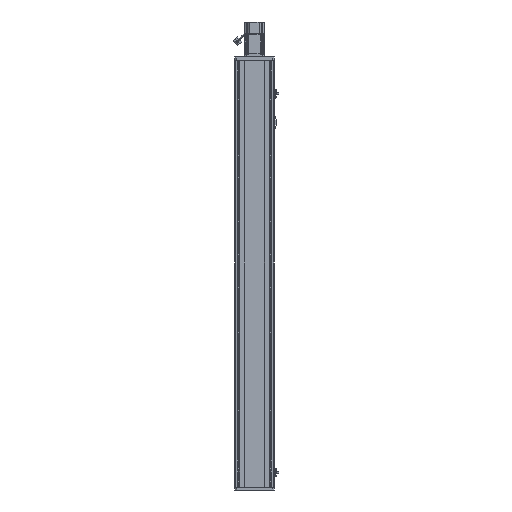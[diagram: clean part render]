
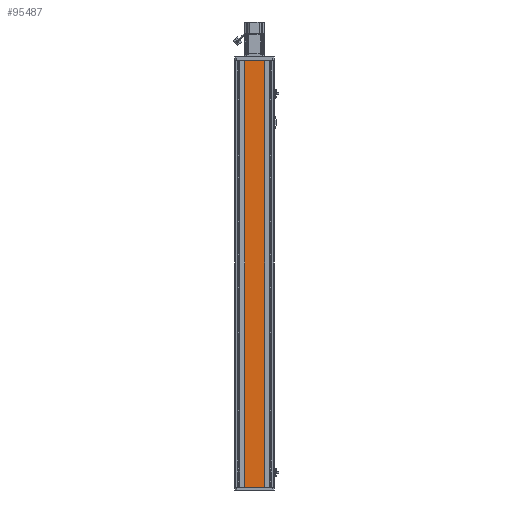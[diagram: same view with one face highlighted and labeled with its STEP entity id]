
A CAD part, front view. The second image highlights one B-rep face of the part: STEP entity #95487.
In plain terms, the highlighted planar face has unit normal (0, -1, 0).
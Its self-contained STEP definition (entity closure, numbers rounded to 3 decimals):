
#142 = VERTEX_POINT ( 'NONE', #74111 ) ;
#6484 = LINE ( 'NONE', #11777, #31202 ) ;
#6858 = AXIS2_PLACEMENT_3D ( 'NONE', #94926, #48555, #113640 ) ;
#11777 = CARTESIAN_POINT ( 'NONE',  ( 30., 0., -1296.5 ) ) ;
#16126 = EDGE_CURVE ( 'NONE', #29821, #24783, #114538, .T. ) ;
#17068 = VECTOR ( 'NONE', #84781, 1000. ) ;
#24783 = VERTEX_POINT ( 'NONE', #54778 ) ;
#29821 = VERTEX_POINT ( 'NONE', #92149 ) ;
#31202 = VECTOR ( 'NONE', #76797, 1000. ) ;
#34282 = EDGE_CURVE ( 'NONE', #102796, #29821, #41695, .T. ) ;
#41311 = DIRECTION ( 'NONE',  ( -1., 0., 0. ) ) ;
#41695 = LINE ( 'NONE', #75439, #17068 ) ;
#46242 = EDGE_LOOP ( 'NONE', ( #92726, #100046, #63998, #60880 ) ) ;
#48555 = DIRECTION ( 'NONE',  ( 0., 1., 0. ) ) ;
#50715 = CARTESIAN_POINT ( 'NONE',  ( 30., 0., 0. ) ) ;
#54778 = CARTESIAN_POINT ( 'NONE',  ( -30., 0., 0. ) ) ;
#60880 = ORIENTED_EDGE ( 'NONE', *, *, #34282, .T. ) ;
#63998 = ORIENTED_EDGE ( 'NONE', *, *, #83447, .F. ) ;
#68553 = CARTESIAN_POINT ( 'NONE',  ( -30., 0., -1296.5 ) ) ;
#74111 = CARTESIAN_POINT ( 'NONE',  ( -30., 0., -1296.5 ) ) ;
#75439 = CARTESIAN_POINT ( 'NONE',  ( 30., 0., -1296.5 ) ) ;
#76797 = DIRECTION ( 'NONE',  ( -1., 0., 0. ) ) ;
#83447 = EDGE_CURVE ( 'NONE', #102796, #142, #6484, .T. ) ;
#84781 = DIRECTION ( 'NONE',  ( 0., 0., 1. ) ) ;
#85543 = PLANE ( 'NONE',  #6858 ) ;
#92094 = LINE ( 'NONE', #68553, #116843 ) ;
#92149 = CARTESIAN_POINT ( 'NONE',  ( 30., 0., 0. ) ) ;
#92726 = ORIENTED_EDGE ( 'NONE', *, *, #16126, .T. ) ;
#94926 = CARTESIAN_POINT ( 'NONE',  ( 30., 0., -1296.5 ) ) ;
#95487 = ADVANCED_FACE ( 'NONE', ( #96769 ), #85543, .F. ) ;
#96769 = FACE_OUTER_BOUND ( 'NONE', #46242, .T. ) ;
#100046 = ORIENTED_EDGE ( 'NONE', *, *, #107870, .F. ) ;
#102796 = VERTEX_POINT ( 'NONE', #116062 ) ;
#107870 = EDGE_CURVE ( 'NONE', #142, #24783, #92094, .T. ) ;
#108688 = VECTOR ( 'NONE', #41311, 1000. ) ;
#113640 = DIRECTION ( 'NONE',  ( -1., 0., 0. ) ) ;
#114505 = DIRECTION ( 'NONE',  ( 0., 0., 1. ) ) ;
#114538 = LINE ( 'NONE', #50715, #108688 ) ;
#116062 = CARTESIAN_POINT ( 'NONE',  ( 30., 0., -1296.5 ) ) ;
#116843 = VECTOR ( 'NONE', #114505, 1000. ) ;
